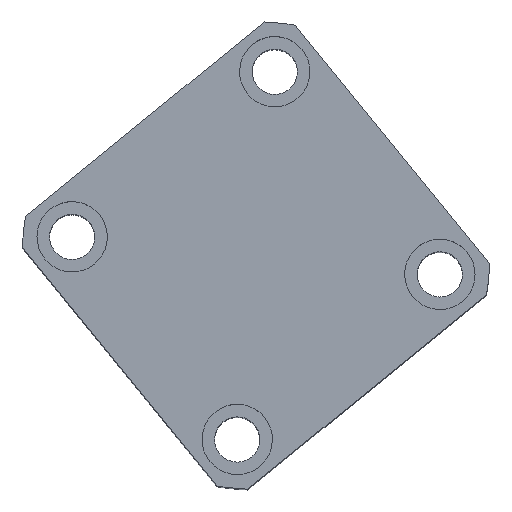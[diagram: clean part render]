
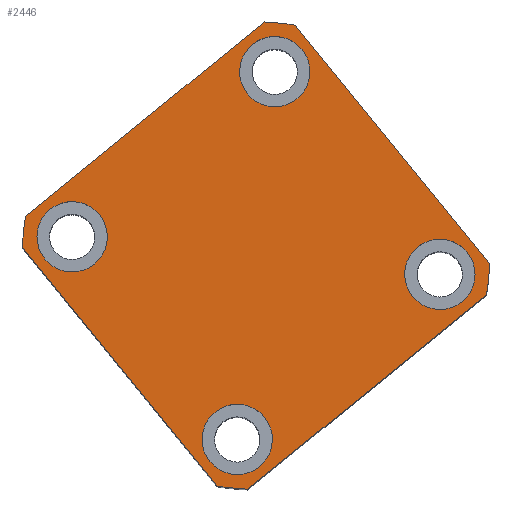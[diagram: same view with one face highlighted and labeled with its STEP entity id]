
A CAD part, top view. The second image highlights one B-rep face of the part: STEP entity #2446.
In plain terms, the highlighted planar face has unit normal (0, 0, 1).
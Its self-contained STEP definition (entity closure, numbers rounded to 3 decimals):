
#327 = CIRCLE ( 'NONE', #11565, 7. ) ;
#349 = ORIENTED_EDGE ( 'NONE', *, *, #9048, .T. ) ;
#357 = DIRECTION ( 'NONE',  ( 0., 0., 1. ) ) ;
#374 = CARTESIAN_POINT ( 'NONE',  ( 30.615, 35., 100. ) ) ;
#401 = DIRECTION ( 'NONE',  ( 0., 0., 1. ) ) ;
#453 = EDGE_CURVE ( 'NONE', #8908, #11404, #6382, .T. ) ;
#469 = DIRECTION ( 'NONE',  ( 1., 0., 0. ) ) ;
#470 = ORIENTED_EDGE ( 'NONE', *, *, #4823, .F. ) ;
#714 = AXIS2_PLACEMENT_3D ( 'NONE', #11316, #5004, #12379 ) ;
#756 = CARTESIAN_POINT ( 'NONE',  ( -30.615, -35., 100. ) ) ;
#895 = EDGE_CURVE ( 'NONE', #10247, #10197, #2086, .T. ) ;
#1123 = AXIS2_PLACEMENT_3D ( 'NONE', #2879, #2828, #2780 ) ;
#1201 = DIRECTION ( 'NONE',  ( 1., 0., 0. ) ) ;
#1225 = DIRECTION ( 'NONE',  ( 0., 0., 1. ) ) ;
#1415 = CARTESIAN_POINT ( 'NONE',  ( 26., 26., 100. ) ) ;
#1491 = DIRECTION ( 'NONE',  ( 0., 0., 1. ) ) ;
#1506 = DIRECTION ( 'NONE',  ( 0., 0., 1. ) ) ;
#1519 = ORIENTED_EDGE ( 'NONE', *, *, #5797, .F. ) ;
#1618 = CARTESIAN_POINT ( 'NONE',  ( -26., -26., 100. ) ) ;
#1657 = ORIENTED_EDGE ( 'NONE', *, *, #10799, .F. ) ;
#1799 = VERTEX_POINT ( 'NONE', #8027 ) ;
#1904 = CARTESIAN_POINT ( 'NONE',  ( -19., -26., 100. ) ) ;
#2004 = DIRECTION ( 'NONE',  ( 1., 0., 0. ) ) ;
#2017 = CARTESIAN_POINT ( 'NONE',  ( -30.615, 35., 100. ) ) ;
#2046 = EDGE_CURVE ( 'NONE', #10752, #2478, #2394, .T. ) ;
#2086 = CIRCLE ( 'NONE', #8303, 7. ) ;
#2094 = CARTESIAN_POINT ( 'NONE',  ( -26., 26., 100. ) ) ;
#2189 = DIRECTION ( 'NONE',  ( 0., 0., 1. ) ) ;
#2228 = FACE_BOUND ( 'NONE', #12418, .T. ) ;
#2342 = CIRCLE ( 'NONE', #4542, 7. ) ;
#2394 = CIRCLE ( 'NONE', #1123, 46.5 ) ;
#2446 = ADVANCED_FACE ( 'NONE', ( #13501, #5403, #5073, #2228, #13154 ), #3593, .T. ) ;
#2478 = VERTEX_POINT ( 'NONE', #756 ) ;
#2480 = CARTESIAN_POINT ( 'NONE',  ( 0., 0., 100. ) ) ;
#2482 = CIRCLE ( 'NONE', #8176, 7. ) ;
#2687 = ORIENTED_EDGE ( 'NONE', *, *, #11646, .F. ) ;
#2699 = ORIENTED_EDGE ( 'NONE', *, *, #7733, .T. ) ;
#2741 = CARTESIAN_POINT ( 'NONE',  ( 30.615, -35., 100. ) ) ;
#2780 = DIRECTION ( 'NONE',  ( 1., 0., 0. ) ) ;
#2789 = DIRECTION ( 'NONE',  ( 0., 0., 1. ) ) ;
#2828 = DIRECTION ( 'NONE',  ( 0., 0., 1. ) ) ;
#2879 = CARTESIAN_POINT ( 'NONE',  ( 0., 0., 100. ) ) ;
#3001 = EDGE_CURVE ( 'NONE', #12910, #10752, #5873, .T. ) ;
#3285 = EDGE_CURVE ( 'NONE', #10086, #11381, #8004, .T. ) ;
#3307 = VERTEX_POINT ( 'NONE', #2741 ) ;
#3593 = PLANE ( 'NONE',  #7257 ) ;
#3762 = AXIS2_PLACEMENT_3D ( 'NONE', #9127, #2789, #10203 ) ;
#3812 = VERTEX_POINT ( 'NONE', #6139 ) ;
#3961 = LINE ( 'NONE', #11878, #6104 ) ;
#3984 = DIRECTION ( 'NONE',  ( 0., 0., 1. ) ) ;
#4169 = AXIS2_PLACEMENT_3D ( 'NONE', #7854, #1506, #8907 ) ;
#4309 = ORIENTED_EDGE ( 'NONE', *, *, #9673, .T. ) ;
#4312 = ORIENTED_EDGE ( 'NONE', *, *, #11911, .T. ) ;
#4324 = VECTOR ( 'NONE', #4802, 1000. ) ;
#4329 = AXIS2_PLACEMENT_3D ( 'NONE', #10311, #3984, #11373 ) ;
#4542 = AXIS2_PLACEMENT_3D ( 'NONE', #6685, #357, #7753 ) ;
#4782 = VERTEX_POINT ( 'NONE', #9519 ) ;
#4802 = DIRECTION ( 'NONE',  ( 0., 1., 0. ) ) ;
#4823 = EDGE_CURVE ( 'NONE', #10197, #10247, #2482, .T. ) ;
#5004 = DIRECTION ( 'NONE',  ( 0., 0., 1. ) ) ;
#5014 = AXIS2_PLACEMENT_3D ( 'NONE', #2094, #2189, #2004 ) ;
#5028 = EDGE_CURVE ( 'NONE', #3812, #5792, #9924, .T. ) ;
#5046 = VECTOR ( 'NONE', #6798, 1000. ) ;
#5073 = FACE_BOUND ( 'NONE', #9458, .T. ) ;
#5403 = FACE_BOUND ( 'NONE', #10432, .T. ) ;
#5461 = DIRECTION ( 'NONE',  ( 0., 0., 1. ) ) ;
#5622 = DIRECTION ( 'NONE',  ( 0., 0., 1. ) ) ;
#5792 = VERTEX_POINT ( 'NONE', #8021 ) ;
#5797 = EDGE_CURVE ( 'NONE', #11381, #10086, #6609, .T. ) ;
#5854 = DIRECTION ( 'NONE',  ( 0., 0., 1. ) ) ;
#5873 = LINE ( 'NONE', #13353, #11153 ) ;
#6001 = CIRCLE ( 'NONE', #4169, 7. ) ;
#6059 = CARTESIAN_POINT ( 'NONE',  ( 33., 26., 100. ) ) ;
#6104 = VECTOR ( 'NONE', #7930, 1000. ) ;
#6139 = CARTESIAN_POINT ( 'NONE',  ( 35., -30.615, 100. ) ) ;
#6245 = EDGE_CURVE ( 'NONE', #4782, #1799, #327, .T. ) ;
#6382 = CIRCLE ( 'NONE', #13545, 7. ) ;
#6489 = ORIENTED_EDGE ( 'NONE', *, *, #2046, .T. ) ;
#6609 = CIRCLE ( 'NONE', #3762, 7. ) ;
#6685 = CARTESIAN_POINT ( 'NONE',  ( 26., 26., 100. ) ) ;
#6697 = CARTESIAN_POINT ( 'NONE',  ( -35., -30.615, 100. ) ) ;
#6715 = VERTEX_POINT ( 'NONE', #374 ) ;
#6798 = DIRECTION ( 'NONE',  ( -1., 0., 0. ) ) ;
#6893 = CARTESIAN_POINT ( 'NONE',  ( -33., 26., 100. ) ) ;
#7257 = AXIS2_PLACEMENT_3D ( 'NONE', #2480, #401, #469 ) ;
#7319 = EDGE_LOOP ( 'NONE', ( #9818, #470 ) ) ;
#7733 = EDGE_CURVE ( 'NONE', #2478, #3307, #3961, .T. ) ;
#7753 = DIRECTION ( 'NONE',  ( 1., 0., 0. ) ) ;
#7843 = CARTESIAN_POINT ( 'NONE',  ( 0., 0., 100. ) ) ;
#7854 = CARTESIAN_POINT ( 'NONE',  ( 26., -26., 100. ) ) ;
#7862 = CARTESIAN_POINT ( 'NONE',  ( 19., 26., 100. ) ) ;
#7930 = DIRECTION ( 'NONE',  ( 1., 0., 0. ) ) ;
#8004 = CIRCLE ( 'NONE', #5014, 7. ) ;
#8021 = CARTESIAN_POINT ( 'NONE',  ( 35., 30.615, 100. ) ) ;
#8027 = CARTESIAN_POINT ( 'NONE',  ( 19., -26., 100. ) ) ;
#8066 = CARTESIAN_POINT ( 'NONE',  ( -19., 26., 100. ) ) ;
#8176 = AXIS2_PLACEMENT_3D ( 'NONE', #11780, #5461, #12850 ) ;
#8303 = AXIS2_PLACEMENT_3D ( 'NONE', #1618, #5622, #10880 ) ;
#8595 = VERTEX_POINT ( 'NONE', #2017 ) ;
#8810 = LINE ( 'NONE', #13151, #5046 ) ;
#8895 = DIRECTION ( 'NONE',  ( 1., 0., 0. ) ) ;
#8907 = DIRECTION ( 'NONE',  ( 1., 0., 0. ) ) ;
#8908 = VERTEX_POINT ( 'NONE', #7862 ) ;
#9048 = EDGE_CURVE ( 'NONE', #3307, #3812, #13489, .T. ) ;
#9109 = CARTESIAN_POINT ( 'NONE',  ( -33., -26., 100. ) ) ;
#9127 = CARTESIAN_POINT ( 'NONE',  ( -26., 26., 100. ) ) ;
#9458 = EDGE_LOOP ( 'NONE', ( #2687, #10450 ) ) ;
#9519 = CARTESIAN_POINT ( 'NONE',  ( 33., -26., 100. ) ) ;
#9673 = EDGE_CURVE ( 'NONE', #8595, #12910, #10147, .T. ) ;
#9732 = ORIENTED_EDGE ( 'NONE', *, *, #3285, .F. ) ;
#9818 = ORIENTED_EDGE ( 'NONE', *, *, #895, .F. ) ;
#9924 = LINE ( 'NONE', #13261, #4324 ) ;
#10032 = EDGE_CURVE ( 'NONE', #6715, #8595, #8810, .T. ) ;
#10086 = VERTEX_POINT ( 'NONE', #6893 ) ;
#10147 = CIRCLE ( 'NONE', #11141, 46.5 ) ;
#10197 = VERTEX_POINT ( 'NONE', #9109 ) ;
#10203 = DIRECTION ( 'NONE',  ( 1., 0., 0. ) ) ;
#10234 = EDGE_LOOP ( 'NONE', ( #12609, #4312, #11599, #4309, #10253, #6489, #2699, #349 ) ) ;
#10247 = VERTEX_POINT ( 'NONE', #1904 ) ;
#10253 = ORIENTED_EDGE ( 'NONE', *, *, #3001, .T. ) ;
#10311 = CARTESIAN_POINT ( 'NONE',  ( 0., 0., 100. ) ) ;
#10432 = EDGE_LOOP ( 'NONE', ( #13258, #1657 ) ) ;
#10450 = ORIENTED_EDGE ( 'NONE', *, *, #453, .F. ) ;
#10463 = CARTESIAN_POINT ( 'NONE',  ( -35., 30.615, 100. ) ) ;
#10524 = CIRCLE ( 'NONE', #714, 46.5 ) ;
#10752 = VERTEX_POINT ( 'NONE', #6697 ) ;
#10799 = EDGE_CURVE ( 'NONE', #1799, #4782, #6001, .T. ) ;
#10880 = DIRECTION ( 'NONE',  ( 1., 0., 0. ) ) ;
#11141 = AXIS2_PLACEMENT_3D ( 'NONE', #7843, #1491, #8895 ) ;
#11153 = VECTOR ( 'NONE', #11675, 1000. ) ;
#11316 = CARTESIAN_POINT ( 'NONE',  ( 0., 0., 100. ) ) ;
#11373 = DIRECTION ( 'NONE',  ( 1., 0., 0. ) ) ;
#11381 = VERTEX_POINT ( 'NONE', #8066 ) ;
#11404 = VERTEX_POINT ( 'NONE', #6059 ) ;
#11565 = AXIS2_PLACEMENT_3D ( 'NONE', #12185, #5854, #13254 ) ;
#11599 = ORIENTED_EDGE ( 'NONE', *, *, #10032, .T. ) ;
#11646 = EDGE_CURVE ( 'NONE', #11404, #8908, #2342, .T. ) ;
#11675 = DIRECTION ( 'NONE',  ( 0., -1., 0. ) ) ;
#11780 = CARTESIAN_POINT ( 'NONE',  ( -26., -26., 100. ) ) ;
#11878 = CARTESIAN_POINT ( 'NONE',  ( -35., -35., 100. ) ) ;
#11911 = EDGE_CURVE ( 'NONE', #5792, #6715, #10524, .T. ) ;
#12185 = CARTESIAN_POINT ( 'NONE',  ( 26., -26., 100. ) ) ;
#12379 = DIRECTION ( 'NONE',  ( 1., 0., 0. ) ) ;
#12418 = EDGE_LOOP ( 'NONE', ( #1519, #9732 ) ) ;
#12609 = ORIENTED_EDGE ( 'NONE', *, *, #5028, .T. ) ;
#12850 = DIRECTION ( 'NONE',  ( 1., 0., 0. ) ) ;
#12910 = VERTEX_POINT ( 'NONE', #10463 ) ;
#13151 = CARTESIAN_POINT ( 'NONE',  ( -35., 35., 100. ) ) ;
#13154 = FACE_OUTER_BOUND ( 'NONE', #10234, .T. ) ;
#13254 = DIRECTION ( 'NONE',  ( 1., 0., 0. ) ) ;
#13258 = ORIENTED_EDGE ( 'NONE', *, *, #6245, .F. ) ;
#13261 = CARTESIAN_POINT ( 'NONE',  ( 35., 35., 100. ) ) ;
#13353 = CARTESIAN_POINT ( 'NONE',  ( -35., 35., 100. ) ) ;
#13489 = CIRCLE ( 'NONE', #4329, 46.5 ) ;
#13501 = FACE_BOUND ( 'NONE', #7319, .T. ) ;
#13545 = AXIS2_PLACEMENT_3D ( 'NONE', #1415, #1225, #1201 ) ;
